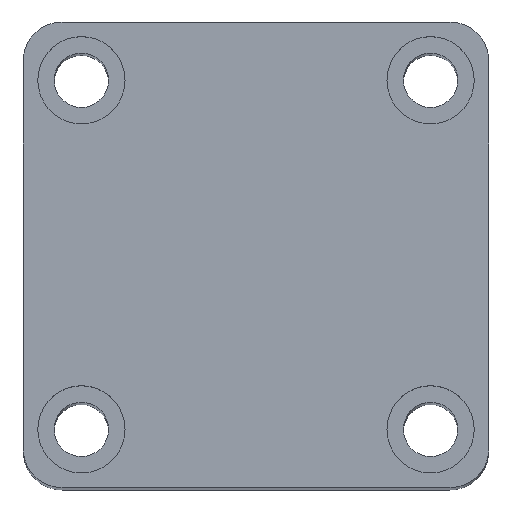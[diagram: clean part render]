
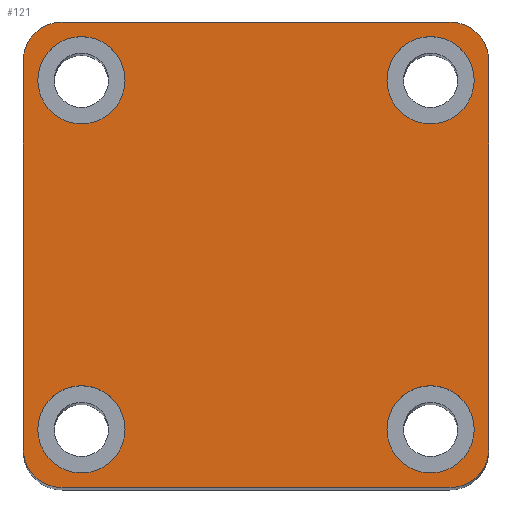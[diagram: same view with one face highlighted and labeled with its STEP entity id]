
A CAD part, top view. The second image highlights one B-rep face of the part: STEP entity #121.
In plain terms, the highlighted planar face has unit normal (0, 0, 1).
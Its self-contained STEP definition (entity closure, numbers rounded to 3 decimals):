
#34 = AXIS2_PLACEMENT_3D ( 'NONE', #1588, #1593, #1589 ) ;
#39 = AXIS2_PLACEMENT_3D ( 'NONE', #1709, #1702, #1700 ) ;
#41 = AXIS2_PLACEMENT_3D ( 'NONE', #1793, #1791, #1786 ) ;
#43 = AXIS2_PLACEMENT_3D ( 'NONE', #1849, #1847, #1843 ) ;
#51 = EDGE_CURVE ( 'NONE', #327, #533, #1214, .T. ) ;
#55 = EDGE_CURVE ( 'NONE', #523, #481, #1208, .T. ) ;
#59 = EDGE_CURVE ( 'NONE', #537, #461, #1200, .T. ) ;
#66 = EDGE_CURVE ( 'NONE', #514, #502, #1183, .T. ) ;
#121 = ADVANCED_FACE ( 'NONE', ( #1012, #1009, #1011, #1010, #1014 ), #1704, .T. ) ;
#188 = ORIENTED_EDGE ( 'NONE', *, *, #863, .T. ) ;
#295 = ORIENTED_EDGE ( 'NONE', *, *, #873, .T. ) ;
#296 = ORIENTED_EDGE ( 'NONE', *, *, #850, .T. ) ;
#297 = ORIENTED_EDGE ( 'NONE', *, *, #874, .T. ) ;
#301 = ORIENTED_EDGE ( 'NONE', *, *, #872, .T. ) ;
#310 = ORIENTED_EDGE ( 'NONE', *, *, #858, .T. ) ;
#327 = VERTEX_POINT ( 'NONE', #2303 ) ;
#448 = ORIENTED_EDGE ( 'NONE', *, *, #867, .F. ) ;
#449 = ORIENTED_EDGE ( 'NONE', *, *, #51, .F. ) ;
#450 = ORIENTED_EDGE ( 'NONE', *, *, #868, .F. ) ;
#451 = ORIENTED_EDGE ( 'NONE', *, *, #55, .F. ) ;
#452 = ORIENTED_EDGE ( 'NONE', *, *, #869, .F. ) ;
#453 = ORIENTED_EDGE ( 'NONE', *, *, #59, .F. ) ;
#454 = ORIENTED_EDGE ( 'NONE', *, *, #870, .F. ) ;
#455 = ORIENTED_EDGE ( 'NONE', *, *, #66, .F. ) ;
#456 = ORIENTED_EDGE ( 'NONE', *, *, #856, .T. ) ;
#461 = VERTEX_POINT ( 'NONE', #2279 ) ;
#469 = VERTEX_POINT ( 'NONE', #2272 ) ;
#478 = VERTEX_POINT ( 'NONE', #2242 ) ;
#481 = VERTEX_POINT ( 'NONE', #2236 ) ;
#502 = VERTEX_POINT ( 'NONE', #2172 ) ;
#512 = VERTEX_POINT ( 'NONE', #2137 ) ;
#514 = VERTEX_POINT ( 'NONE', #2136 ) ;
#523 = VERTEX_POINT ( 'NONE', #2113 ) ;
#532 = VERTEX_POINT ( 'NONE', #2656 ) ;
#533 = VERTEX_POINT ( 'NONE', #2655 ) ;
#534 = VERTEX_POINT ( 'NONE', #2654 ) ;
#536 = VERTEX_POINT ( 'NONE', #2652 ) ;
#537 = VERTEX_POINT ( 'NONE', #2651 ) ;
#544 = VERTEX_POINT ( 'NONE', #2642 ) ;
#550 = VERTEX_POINT ( 'NONE', #2633 ) ;
#628 = ORIENTED_EDGE ( 'NONE', *, *, #871, .T. ) ;
#732 = AXIS2_PLACEMENT_3D ( 'NONE', #2471, #2470, #2469 ) ;
#733 = AXIS2_PLACEMENT_3D ( 'NONE', #2474, #2473, #2472 ) ;
#734 = AXIS2_PLACEMENT_3D ( 'NONE', #2477, #2476, #2475 ) ;
#738 = AXIS2_PLACEMENT_3D ( 'NONE', #2480, #2479, #2478 ) ;
#739 = AXIS2_PLACEMENT_3D ( 'NONE', #2483, #2482, #2481 ) ;
#740 = AXIS2_PLACEMENT_3D ( 'NONE', #2486, #2485, #2484 ) ;
#741 = AXIS2_PLACEMENT_3D ( 'NONE', #2489, #2488, #2487 ) ;
#742 = AXIS2_PLACEMENT_3D ( 'NONE', #2493, #2492, #2491 ) ;
#776 = AXIS2_PLACEMENT_3D ( 'NONE', #1707, #1712, #1699 ) ;
#850 = EDGE_CURVE ( 'NONE', #550, #478, #1449, .T. ) ;
#856 = EDGE_CURVE ( 'NONE', #469, #512, #1436, .T. ) ;
#858 = EDGE_CURVE ( 'NONE', #534, #544, #1432, .T. ) ;
#863 = EDGE_CURVE ( 'NONE', #532, #536, #1422, .T. ) ;
#867 = EDGE_CURVE ( 'NONE', #533, #327, #1415, .T. ) ;
#868 = EDGE_CURVE ( 'NONE', #481, #523, #1413, .T. ) ;
#869 = EDGE_CURVE ( 'NONE', #461, #537, #1412, .T. ) ;
#870 = EDGE_CURVE ( 'NONE', #502, #514, #1411, .T. ) ;
#871 = EDGE_CURVE ( 'NONE', #512, #534, #1410, .T. ) ;
#872 = EDGE_CURVE ( 'NONE', #544, #532, #1409, .T. ) ;
#873 = EDGE_CURVE ( 'NONE', #536, #550, #1408, .T. ) ;
#874 = EDGE_CURVE ( 'NONE', #478, #469, #1407, .T. ) ;
#1009 = FACE_BOUND ( 'NONE', #1261, .T. ) ;
#1010 = FACE_BOUND ( 'NONE', #1260, .T. ) ;
#1011 = FACE_BOUND ( 'NONE', #1247, .T. ) ;
#1012 = FACE_BOUND ( 'NONE', #1248, .T. ) ;
#1014 = FACE_OUTER_BOUND ( 'NONE', #1255, .T. ) ;
#1183 = CIRCLE ( 'NONE', #34, 4.5 ) ;
#1200 = CIRCLE ( 'NONE', #39, 4.5 ) ;
#1208 = CIRCLE ( 'NONE', #41, 4.5 ) ;
#1214 = CIRCLE ( 'NONE', #43, 4.5 ) ;
#1247 = EDGE_LOOP ( 'NONE', ( #452, #453 ) ) ;
#1248 = EDGE_LOOP ( 'NONE', ( #448, #449 ) ) ;
#1255 = EDGE_LOOP ( 'NONE', ( #456, #628, #310, #301, #188, #295, #296, #297 ) ) ;
#1260 = EDGE_LOOP ( 'NONE', ( #454, #455 ) ) ;
#1261 = EDGE_LOOP ( 'NONE', ( #450, #451 ) ) ;
#1407 = CIRCLE ( 'NONE', #732, 4. ) ;
#1408 = CIRCLE ( 'NONE', #733, 4. ) ;
#1409 = CIRCLE ( 'NONE', #734, 4. ) ;
#1410 = CIRCLE ( 'NONE', #738, 4. ) ;
#1411 = CIRCLE ( 'NONE', #739, 4.5 ) ;
#1412 = CIRCLE ( 'NONE', #740, 4.5 ) ;
#1413 = CIRCLE ( 'NONE', #741, 4.5 ) ;
#1415 = CIRCLE ( 'NONE', #742, 4.5 ) ;
#1420 = VECTOR ( 'NONE', #2527, 1000. ) ;
#1422 = LINE ( 'NONE', #2511, #1420 ) ;
#1429 = VECTOR ( 'NONE', #2514, 1000. ) ;
#1432 = LINE ( 'NONE', #2517, #1429 ) ;
#1433 = VECTOR ( 'NONE', #2521, 1000. ) ;
#1436 = LINE ( 'NONE', #2523, #1433 ) ;
#1445 = VECTOR ( 'NONE', #2550, 1000. ) ;
#1449 = LINE ( 'NONE', #2543, #1445 ) ;
#1588 = CARTESIAN_POINT ( 'NONE',  ( 18., -18., 145. ) ) ;
#1589 = DIRECTION ( 'NONE',  ( 1., 0., 0. ) ) ;
#1593 = DIRECTION ( 'NONE',  ( 0., 0., 1. ) ) ;
#1699 = DIRECTION ( 'NONE',  ( 1., 0., 0. ) ) ;
#1700 = DIRECTION ( 'NONE',  ( 1., 0., 0. ) ) ;
#1702 = DIRECTION ( 'NONE',  ( 0., 0., 1. ) ) ;
#1704 = PLANE ( 'NONE',  #776 ) ;
#1707 = CARTESIAN_POINT ( 'NONE',  ( 0., 0., 145. ) ) ;
#1709 = CARTESIAN_POINT ( 'NONE',  ( -18., -18., 145. ) ) ;
#1712 = DIRECTION ( 'NONE',  ( 0., 0., 1. ) ) ;
#1786 = DIRECTION ( 'NONE',  ( 1., 0., 0. ) ) ;
#1791 = DIRECTION ( 'NONE',  ( 0., 0., 1. ) ) ;
#1793 = CARTESIAN_POINT ( 'NONE',  ( 18., 18., 145. ) ) ;
#1843 = DIRECTION ( 'NONE',  ( 1., 0., 0. ) ) ;
#1847 = DIRECTION ( 'NONE',  ( 0., 0., 1. ) ) ;
#1849 = CARTESIAN_POINT ( 'NONE',  ( -18., 18., 145. ) ) ;
#2113 = CARTESIAN_POINT ( 'NONE',  ( 13.5, 18., 145. ) ) ;
#2136 = CARTESIAN_POINT ( 'NONE',  ( 13.5, -18., 145. ) ) ;
#2137 = CARTESIAN_POINT ( 'NONE',  ( -20., 24., 145. ) ) ;
#2172 = CARTESIAN_POINT ( 'NONE',  ( 22.5, -18., 145. ) ) ;
#2236 = CARTESIAN_POINT ( 'NONE',  ( 22.5, 18., 145. ) ) ;
#2242 = CARTESIAN_POINT ( 'NONE',  ( 24., 20., 145. ) ) ;
#2272 = CARTESIAN_POINT ( 'NONE',  ( 20., 24., 145. ) ) ;
#2279 = CARTESIAN_POINT ( 'NONE',  ( -13.5, -18., 145. ) ) ;
#2303 = CARTESIAN_POINT ( 'NONE',  ( -22.5, 18., 145. ) ) ;
#2469 = DIRECTION ( 'NONE',  ( 1., 0., 0. ) ) ;
#2470 = DIRECTION ( 'NONE',  ( 0., 0., 1. ) ) ;
#2471 = CARTESIAN_POINT ( 'NONE',  ( 20., 20., 145. ) ) ;
#2472 = DIRECTION ( 'NONE',  ( 1., 0., 0. ) ) ;
#2473 = DIRECTION ( 'NONE',  ( 0., 0., 1. ) ) ;
#2474 = CARTESIAN_POINT ( 'NONE',  ( 20., -20., 145. ) ) ;
#2475 = DIRECTION ( 'NONE',  ( 1., 0., 0. ) ) ;
#2476 = DIRECTION ( 'NONE',  ( 0., 0., 1. ) ) ;
#2477 = CARTESIAN_POINT ( 'NONE',  ( -20., -20., 145. ) ) ;
#2478 = DIRECTION ( 'NONE',  ( 1., 0., 0. ) ) ;
#2479 = DIRECTION ( 'NONE',  ( 0., 0., 1. ) ) ;
#2480 = CARTESIAN_POINT ( 'NONE',  ( -20., 20., 145. ) ) ;
#2481 = DIRECTION ( 'NONE',  ( 1., 0., 0. ) ) ;
#2482 = DIRECTION ( 'NONE',  ( 0., 0., 1. ) ) ;
#2483 = CARTESIAN_POINT ( 'NONE',  ( 18., -18., 145. ) ) ;
#2484 = DIRECTION ( 'NONE',  ( 1., 0., 0. ) ) ;
#2485 = DIRECTION ( 'NONE',  ( 0., 0., 1. ) ) ;
#2486 = CARTESIAN_POINT ( 'NONE',  ( -18., -18., 145. ) ) ;
#2487 = DIRECTION ( 'NONE',  ( 1., 0., 0. ) ) ;
#2488 = DIRECTION ( 'NONE',  ( 0., 0., 1. ) ) ;
#2489 = CARTESIAN_POINT ( 'NONE',  ( 18., 18., 145. ) ) ;
#2491 = DIRECTION ( 'NONE',  ( 1., 0., 0. ) ) ;
#2492 = DIRECTION ( 'NONE',  ( 0., 0., 1. ) ) ;
#2493 = CARTESIAN_POINT ( 'NONE',  ( -18., 18., 145. ) ) ;
#2511 = CARTESIAN_POINT ( 'NONE',  ( -24., -24., 145. ) ) ;
#2514 = DIRECTION ( 'NONE',  ( 0., -1., 0. ) ) ;
#2517 = CARTESIAN_POINT ( 'NONE',  ( -24., 24., 145. ) ) ;
#2521 = DIRECTION ( 'NONE',  ( -1., 0., 0. ) ) ;
#2523 = CARTESIAN_POINT ( 'NONE',  ( -24., 24., 145. ) ) ;
#2527 = DIRECTION ( 'NONE',  ( 1., 0., 0. ) ) ;
#2543 = CARTESIAN_POINT ( 'NONE',  ( 24., 24., 145. ) ) ;
#2550 = DIRECTION ( 'NONE',  ( 0., 1., 0. ) ) ;
#2633 = CARTESIAN_POINT ( 'NONE',  ( 24., -20., 145. ) ) ;
#2642 = CARTESIAN_POINT ( 'NONE',  ( -24., -20., 145. ) ) ;
#2651 = CARTESIAN_POINT ( 'NONE',  ( -22.5, -18., 145. ) ) ;
#2652 = CARTESIAN_POINT ( 'NONE',  ( 20., -24., 145. ) ) ;
#2654 = CARTESIAN_POINT ( 'NONE',  ( -24., 20., 145. ) ) ;
#2655 = CARTESIAN_POINT ( 'NONE',  ( -13.5, 18., 145. ) ) ;
#2656 = CARTESIAN_POINT ( 'NONE',  ( -20., -24., 145. ) ) ;
